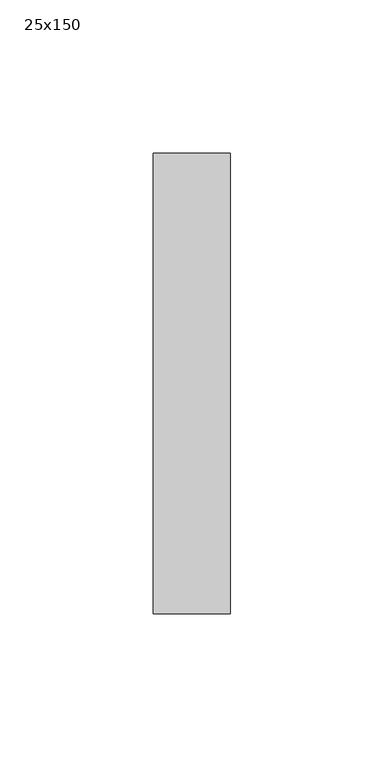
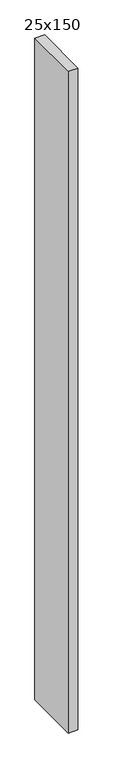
"""IFC4 building model written with IfcOpenShell, lengths in millimetres: member geometry, 長方形のマリオン : 25x150."""

from ifc_helpers import new_model, si_unit, frame, origin, place, context, project, spatial, polyline, outline, extrude, source, transform, mapped, element, save


def member_25x150_8b8be5b9(model_context):
    return source(origin(), model_context, "Body", "SweptSolid", [
        extrude(outline(polyline([(0.0, 75.0), (0.0, -75.0), (-25.0, -75.0), (-25.0, 75.0), (0.0, 75.0)])), frame((0.0, 0.0, -1816.6666665), z_axis=(0.0, 0.0, 1.0), x_axis=(1.0, 0.0, 0.0)), (0.0, 0.0, 1.0), 1816.6666665),
    ])


if __name__ == "__main__":
    model = new_model("IFC4")
    model_context = context("Model", 3, world=origin())
    ifc_project = project(units=[si_unit("LENGTHUNIT", "METRE", prefix="MILLI")], contexts=[model_context])
    site = spatial("IfcSite", under=ifc_project)
    building = spatial("IfcBuilding", under=site)
    placement = place(None, origin())
    member_25x150_shape = member_25x150_8b8be5b9(model_context)
    element("IfcMember", 1, ObjectType="長方形のマリオン : 25x150", at=placement, inside=building, context=model_context, shape_type="MappedRepresentation", body=[
        mapped(member_25x150_shape, transform((0.0, 0.0, 0.0), x_axis=(1.0, 0.0, 0.0), y_axis=(0.0, 1.0, 0.0), z_axis=(0.0, 0.0, 1.0))),
    ])
    save(model, "model.ifc")
